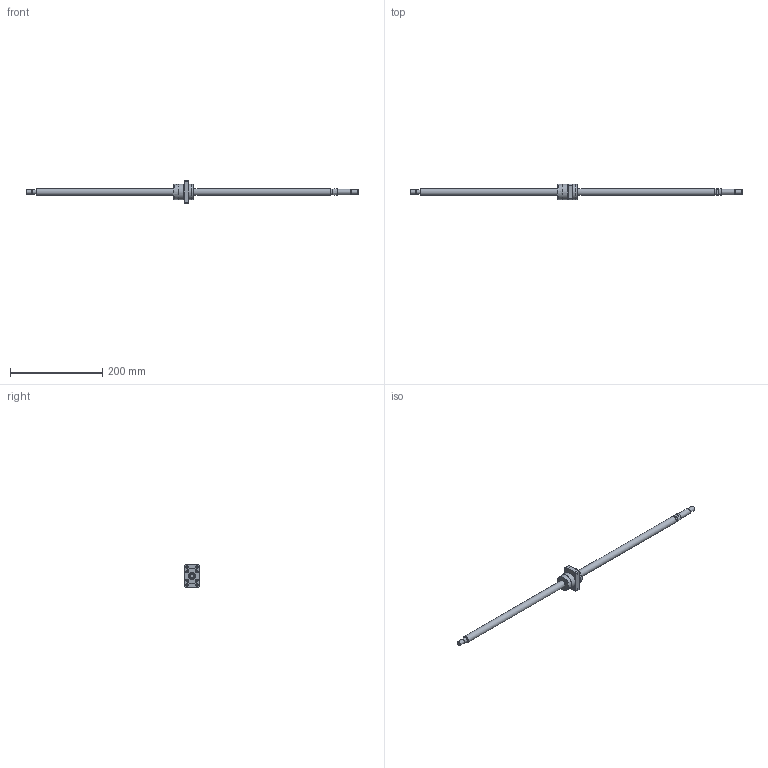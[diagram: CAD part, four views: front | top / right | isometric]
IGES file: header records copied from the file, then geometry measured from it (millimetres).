
Start section: Data from Parasolid IGES Translator 26.0.171, Copyright(c) 2006 Siemens PLM Software. All Rights Reserved.
Global section: file name: BNK1510-5.6G0+721LC5Y(341.50).igs; native system: By Siemens PLM Incorporated; preprocessor: XPlus GENERIC/IGES 26.0.171; author: Noname; organization: Noname; date: 20240709.092313; units: millimetre
Bounding box: 721 x 34 x 50 mm (x, y, z)
Surface area: 45265 mm2 (no closed solid volume)
Topology: 0 solids, 0 shells, 140 faces, 657 edges, 601 vertices
Faces by surface type: extrusion 76, revolution 64
